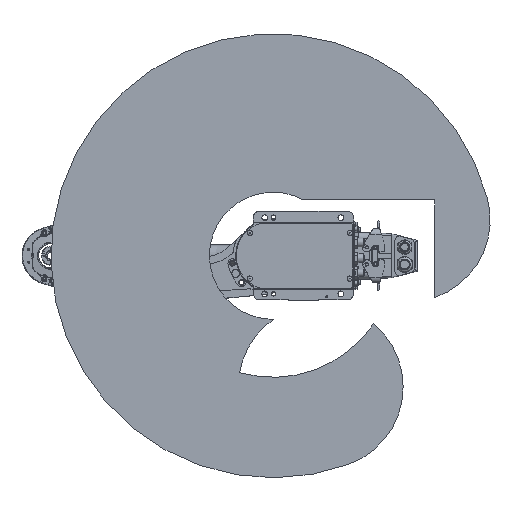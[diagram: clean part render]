
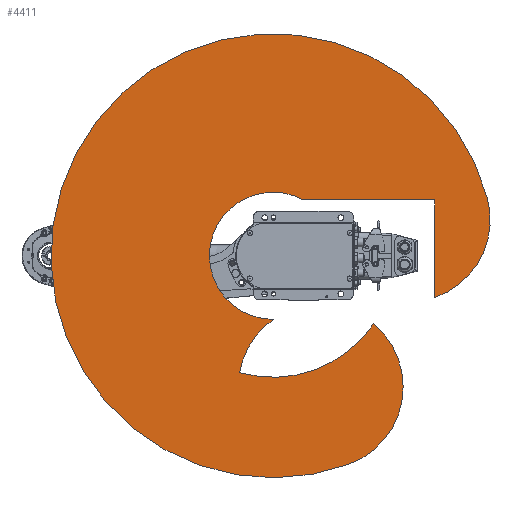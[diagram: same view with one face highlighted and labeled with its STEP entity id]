
A CAD part, front view. The second image highlights one B-rep face of the part: STEP entity #4411.
In plain terms, the highlighted planar face has unit normal (0, -1, 0).
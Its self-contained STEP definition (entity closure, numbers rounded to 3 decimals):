
#4411 = ADVANCED_FACE( '', ( #12519 ), #12520, .F. );
#12519 = FACE_OUTER_BOUND( '', #25788, .T. );
#12520 = PLANE( '', #25789 );
#25788 = EDGE_LOOP( '', ( #41475, #41476, #41477, #41478, #41479, #41480, #41481, #41482 ) );
#25789 = AXIS2_PLACEMENT_3D( '', #41483, #41484, #41485 );
#41475 = ORIENTED_EDGE( '', *, *, #73294, .T. );
#41476 = ORIENTED_EDGE( '', *, *, #73751, .F. );
#41477 = ORIENTED_EDGE( '', *, *, #73752, .F. );
#41478 = ORIENTED_EDGE( '', *, *, #73753, .F. );
#41479 = ORIENTED_EDGE( '', *, *, #73754, .T. );
#41480 = ORIENTED_EDGE( '', *, *, #73755, .T. );
#41481 = ORIENTED_EDGE( '', *, *, #73756, .T. );
#41482 = ORIENTED_EDGE( '', *, *, #73757, .T. );
#41483 = CARTESIAN_POINT( '', ( 103.366, 0., 37.622 ) );
#41484 = DIRECTION( '', ( 0., 1., 0. ) );
#41485 = DIRECTION( '', ( 0., 0., 1. ) );
#73294 = EDGE_CURVE( '', #86202, #86200, #86203, .T. );
#73751 = EDGE_CURVE( '', #87011, #86200, #87012, .T. );
#73752 = EDGE_CURVE( '', #87013, #87011, #87014, .T. );
#73753 = EDGE_CURVE( '', #87015, #87013, #87016, .T. );
#73754 = EDGE_CURVE( '', #87015, #87017, #87018, .T. );
#73755 = EDGE_CURVE( '', #87017, #87019, #87020, .T. );
#73756 = EDGE_CURVE( '', #87019, #87021, #87022, .T. );
#73757 = EDGE_CURVE( '', #87021, #86202, #87023, .T. );
#86200 = VERTEX_POINT( '', #105420 );
#86202 = VERTEX_POINT( '', #105423 );
#86203 = LINE( '', #105424, #105425 );
#87011 = VERTEX_POINT( '', #106639 );
#87012 = CIRCLE( '', #106640, 130. );
#87013 = VERTEX_POINT( '', #106641 );
#87014 = CIRCLE( '', #106642, 350. );
#87015 = VERTEX_POINT( '', #106643 );
#87016 = CIRCLE( '', #106644, 130. );
#87017 = VERTEX_POINT( '', #106645 );
#87018 = CIRCLE( '', #106646, 191.57 );
#87019 = VERTEX_POINT( '', #106647 );
#87020 = CIRCLE( '', #106648, 130. );
#87021 = VERTEX_POINT( '', #106649 );
#87022 = CIRCLE( '', #106650, 100.24 );
#87023 = LINE( '', #106651, #106652 );
#105420 = CARTESIAN_POINT( '', ( 65.918, 0., 255. ) );
#105423 = CARTESIAN_POINT( '', ( -88., 0., 255. ) );
#105424 = CARTESIAN_POINT( '', ( -88., 0., 255. ) );
#105425 = VECTOR( '', #135519, 1000. );
#106639 = CARTESIAN_POINT( '', ( -90.587, 0., 338.074 ) );
#106640 = AXIS2_PLACEMENT_3D( '', #136026, #136027, #136028 );
#106641 = CARTESIAN_POINT( '', ( 328.892, 0., 119.707 ) );
#106642 = AXIS2_PLACEMENT_3D( '', #136029, #136030, #136031 );
#106643 = CARTESIAN_POINT( '', ( 107.145, 0., 158.805 ) );
#106644 = AXIS2_PLACEMENT_3D( '', #136032, #136033, #136034 );
#106645 = CARTESIAN_POINT( '', ( 184.156, 0., -52.78 ) );
#106646 = AXIS2_PLACEMENT_3D( '', #136035, #136036, #136037 );
#106647 = CARTESIAN_POINT( '', ( 100.238, 0., 0.687 ) );
#106648 = AXIS2_PLACEMENT_3D( '', #136038, #136039, #136040 );
#106649 = CARTESIAN_POINT( '', ( -88., 0., 48.001 ) );
#106650 = AXIS2_PLACEMENT_3D( '', #136041, #136042, #136043 );
#106651 = CARTESIAN_POINT( '', ( -88., 0., 48.001 ) );
#106652 = VECTOR( '', #136044, 1000. );
#135519 = DIRECTION( '', ( 1., 0., 0. ) );
#136026 = CARTESIAN_POINT( '', ( -56.94, 0., 212.504 ) );
#136027 = DIRECTION( '', ( 0., 1., 0. ) );
#136028 = DIRECTION( '', ( 1., 0., 0. ) );
#136029 = CARTESIAN_POINT( '', ( 0., 0., 0. ) );
#136030 = DIRECTION( '', ( 0., 1., 0. ) );
#136031 = DIRECTION( '', ( 1., 0., 0. ) );
#136032 = CARTESIAN_POINT( '', ( 206.732, 0., 75.244 ) );
#136033 = DIRECTION( '', ( 0., 1., 0. ) );
#136034 = DIRECTION( '', ( 1., 0., 0. ) );
#136035 = CARTESIAN_POINT( '', ( 0., 0., 0. ) );
#136036 = DIRECTION( '', ( 0., 1., 0. ) );
#136037 = DIRECTION( '', ( 1., 0., 0. ) );
#136038 = CARTESIAN_POINT( '', ( 206.732, 0., 75.244 ) );
#136039 = DIRECTION( '', ( 0., 1., 0. ) );
#136040 = DIRECTION( '', ( 1., 0., 0. ) );
#136041 = CARTESIAN_POINT( '', ( 0., 0., 0. ) );
#136042 = DIRECTION( '', ( 0., 1., 0. ) );
#136043 = DIRECTION( '', ( 1., 0., 0. ) );
#136044 = DIRECTION( '', ( 0., 0., 1. ) );
